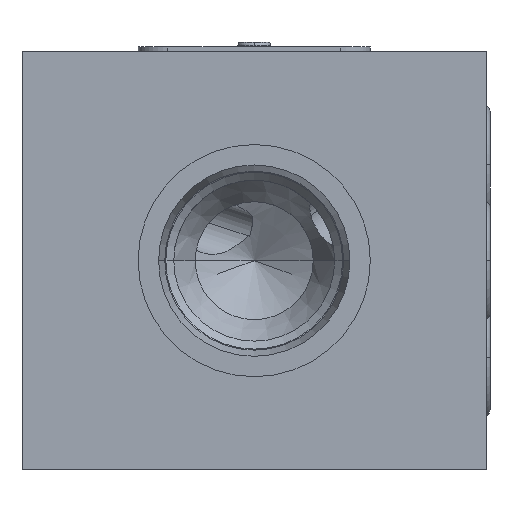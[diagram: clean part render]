
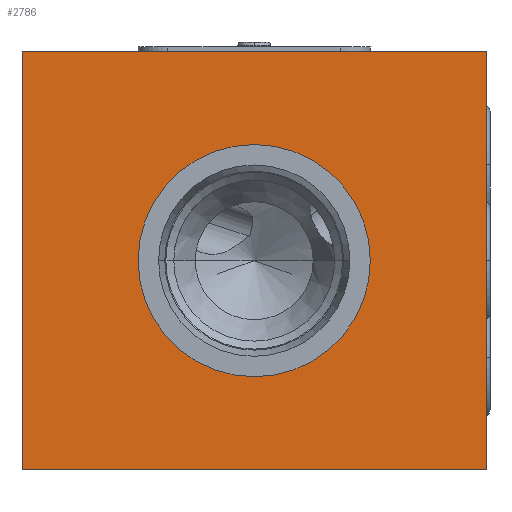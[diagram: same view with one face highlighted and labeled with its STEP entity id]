
A CAD part, left-side view. The second image highlights one B-rep face of the part: STEP entity #2786.
In plain terms, the highlighted planar face has unit normal (-1, 0, 0).
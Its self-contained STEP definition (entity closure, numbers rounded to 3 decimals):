
#55=DIRECTION('',(0.,0.,-1.));
#56=VECTOR('',#55,45.);
#57=CARTESIAN_POINT('',(0.,0.,0.));
#58=LINE('',#57,#56);
#62=DIRECTION('',(0.,1.,0.));
#63=VECTOR('',#62,50.);
#64=CARTESIAN_POINT('',(0.,0.,-45.));
#65=LINE('',#64,#63);
#69=DIRECTION('',(0.,0.,1.));
#70=VECTOR('',#69,45.);
#71=CARTESIAN_POINT('',(0.,50.,-45.));
#72=LINE('',#71,#70);
#76=DIRECTION('',(0.,-1.,0.));
#77=VECTOR('',#76,50.);
#78=CARTESIAN_POINT('',(0.,50.,0.));
#79=LINE('',#78,#77);
#83=CARTESIAN_POINT('',(0.,25.,-22.5));
#84=DIRECTION('',(1.,0.,0.));
#85=DIRECTION('',(0.,-1.,0.));
#86=AXIS2_PLACEMENT_3D('',#83,#84,#85);
#91=CARTESIAN_POINT('',(0.,25.,-22.5));
#92=DIRECTION('',(1.,0.,0.));
#93=DIRECTION('',(0.,1.,0.));
#94=AXIS2_PLACEMENT_3D('',#91,#92,#93);
#2499=CARTESIAN_POINT('',(0.,0.,0.));
#2500=CARTESIAN_POINT('',(0.,0.,-45.));
#2501=VERTEX_POINT('',#2499);
#2502=VERTEX_POINT('',#2500);
#2503=CARTESIAN_POINT('',(0.,50.,-45.));
#2504=VERTEX_POINT('',#2503);
#2505=CARTESIAN_POINT('',(0.,50.,0.));
#2506=VERTEX_POINT('',#2505);
#2619=CARTESIAN_POINT('',(0.,12.5,-22.5));
#2620=VERTEX_POINT('',#2619);
#2621=CARTESIAN_POINT('',(0.,37.5,-22.5));
#2622=VERTEX_POINT('',#2621);
#2765=CARTESIAN_POINT('',(0.,0.,0.));
#2766=DIRECTION('',(1.,0.,0.));
#2767=DIRECTION('',(0.,0.,-1.));
#2768=AXIS2_PLACEMENT_3D('',#2765,#2766,#2767);
#2769=PLANE('',#2768);
#2771=ORIENTED_EDGE('',*,*,#2770,.T.);
#2773=ORIENTED_EDGE('',*,*,#2772,.T.);
#2775=ORIENTED_EDGE('',*,*,#2774,.T.);
#2777=ORIENTED_EDGE('',*,*,#2776,.T.);
#2778=EDGE_LOOP('',(#2771,#2773,#2775,#2777));
#2779=FACE_OUTER_BOUND('',#2778,.F.);
#2781=ORIENTED_EDGE('',*,*,#2780,.F.);
#2783=ORIENTED_EDGE('',*,*,#2782,.F.);
#2784=EDGE_LOOP('',(#2781,#2783));
#2785=FACE_BOUND('',#2784,.F.);
#87=CIRCLE('',#86,12.5);
#95=CIRCLE('',#94,12.5);
#2770=EDGE_CURVE('',#2501,#2502,#58,.T.);
#2772=EDGE_CURVE('',#2502,#2504,#65,.T.);
#2774=EDGE_CURVE('',#2504,#2506,#72,.T.);
#2776=EDGE_CURVE('',#2506,#2501,#79,.T.);
#2780=EDGE_CURVE('',#2620,#2622,#87,.T.);
#2782=EDGE_CURVE('',#2622,#2620,#95,.T.);
#2786=ADVANCED_FACE('',(#2779,#2785),#2769,.F.);
